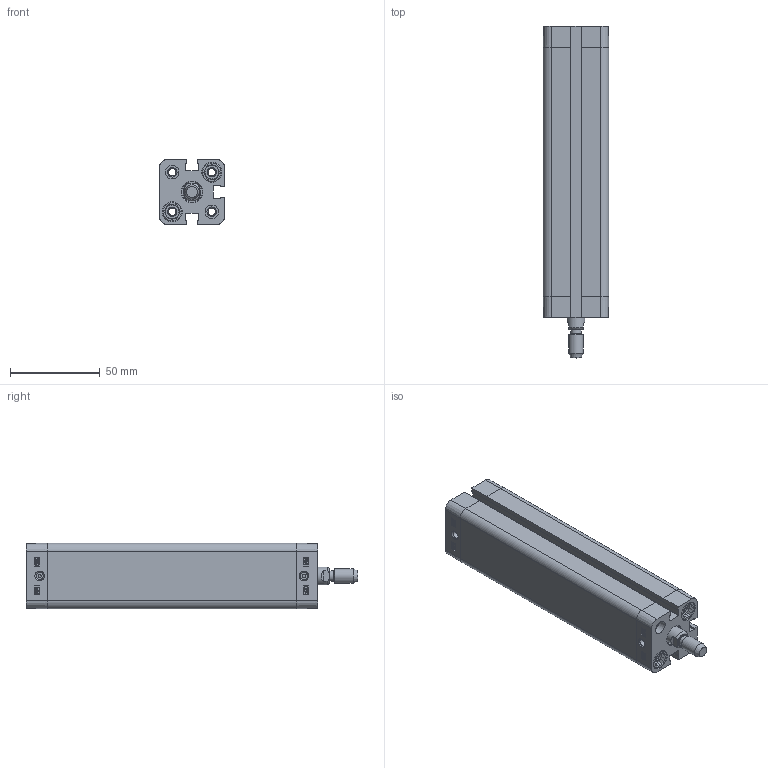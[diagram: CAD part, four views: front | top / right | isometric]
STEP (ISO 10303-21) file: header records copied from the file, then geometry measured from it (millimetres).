
FILE_DESCRIPTION((''),'2;1');
FILE_NAME('T:\Archivio Inventor\- CATALOGHI 2012\SERIE P - NUOVA\PDM\PDM020\PDM020.---.GS.M\STEP\PDM020.125.GS.M.stp','2013-01-30T11:00:01',('Administrator'),(''),'Autodesk Inventor 2012','Autodesk Inventor 2012','');
FILE_SCHEMA(('CONFIG_CONTROL_DESIGN'));
Length unit declared in the file: millimetre
Products named in the file (1): PDM020.125.GS.M
Bounding box: 36.3 x 184.6 x 36.3 mm (x, y, z)
Volume: 106834.1 mm3; surface area: 62060.4 mm2
Topology: 1 solids, 3 shells, 489 faces, 1225 edges, 798 vertices
Faces by surface type: plane 245, bspline 94, cylinder 88, cone 50, torus 12
Full cylindrical faces by diameter (mm): 1.75 x2, 4.134 x10, 5.8 x1, 7.5 x4, 7.55 x2, 8 x9, 9 x1, 10 x1, 10.8 x4, 11.1 x4, 11.4 x1, 20 x1, 22.3 x1, 22.5 x1
Entity records: 15057 total; most frequent: CARTESIAN_POINT 3740, ORIENTED_EDGE 2232, DIRECTION 1950, EDGE_CURVE 1116, VERTEX_POINT 782, VECTOR 670, LINE 670, EDGE_LOOP 652
